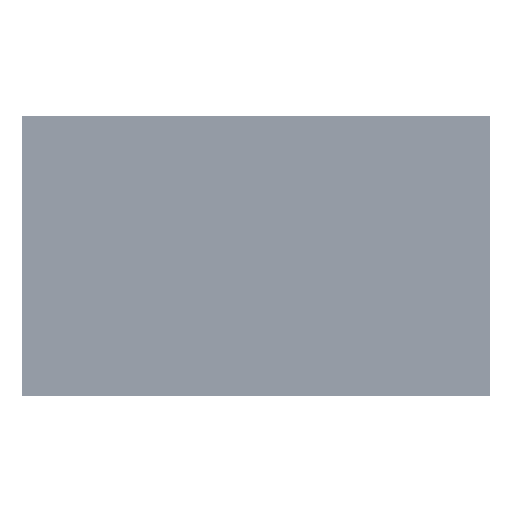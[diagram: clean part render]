
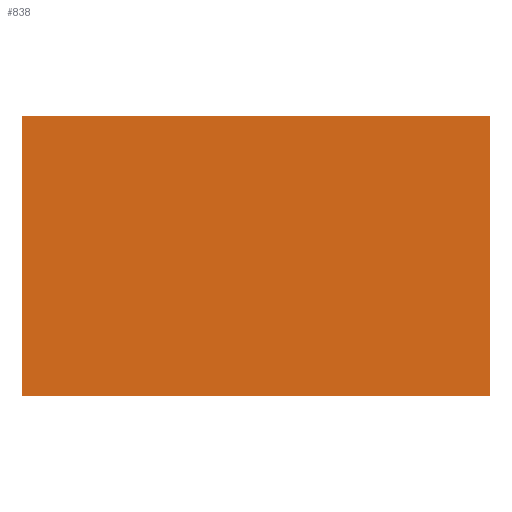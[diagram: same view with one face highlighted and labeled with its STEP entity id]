
A CAD part, left-side view. The second image highlights one B-rep face of the part: STEP entity #838.
In plain terms, the highlighted planar face has unit normal (-1, 0, 0).
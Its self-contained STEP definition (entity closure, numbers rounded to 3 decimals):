
#778 = VERTEX_POINT ( 'NONE', #8445 ) ;
#780 = EDGE_CURVE ( 'NONE', #781, #778, #8443, .T. ) ;
#781 = VERTEX_POINT ( 'NONE', #8502 ) ;
#838 = ADVANCED_FACE ( 'NONE', ( #8588 ), #8587, .T. ) ;
#839 = EDGE_LOOP ( 'NONE', ( #840, #843, #846, #848 ) ) ;
#840 = ORIENTED_EDGE ( 'NONE', *, *, #841, .F. ) ;
#841 = EDGE_CURVE ( 'NONE', #842, #778, #8582, .T. ) ;
#842 = VERTEX_POINT ( 'NONE', #8578 ) ;
#843 = ORIENTED_EDGE ( 'NONE', *, *, #844, .F. ) ;
#844 = EDGE_CURVE ( 'NONE', #845, #842, #8577, .T. ) ;
#845 = VERTEX_POINT ( 'NONE', #8573 ) ;
#846 = ORIENTED_EDGE ( 'NONE', *, *, #847, .T. ) ;
#847 = EDGE_CURVE ( 'NONE', #845, #781, #8572, .T. ) ;
#848 = ORIENTED_EDGE ( 'NONE', *, *, #780, .T. ) ;
#8440 = DIRECTION ( 'NONE',  ( 0., 0., -1. ) ) ;
#8441 = VECTOR ( 'NONE', #8440, 1000. ) ;
#8442 = CARTESIAN_POINT ( 'NONE',  ( 75.26, 239.782, 50. ) ) ;
#8443 = LINE ( 'NONE', #8442, #8441 ) ;
#8445 = CARTESIAN_POINT ( 'NONE',  ( 75.26, 239.782, 0. ) ) ;
#8502 = CARTESIAN_POINT ( 'NONE',  ( 75.26, 239.782, 50. ) ) ;
#8569 = DIRECTION ( 'NONE',  ( 0., 1., 0. ) ) ;
#8570 = VECTOR ( 'NONE', #8569, 1000. ) ;
#8571 = CARTESIAN_POINT ( 'NONE',  ( 75.26, -196.404, 50. ) ) ;
#8572 = LINE ( 'NONE', #8571, #8570 ) ;
#8573 = CARTESIAN_POINT ( 'NONE',  ( 75.26, 156.282, 50. ) ) ;
#8574 = DIRECTION ( 'NONE',  ( 0., 0., -1. ) ) ;
#8575 = VECTOR ( 'NONE', #8574, 1000. ) ;
#8576 = CARTESIAN_POINT ( 'NONE',  ( 75.26, 156.282, 50. ) ) ;
#8577 = LINE ( 'NONE', #8576, #8575 ) ;
#8578 = CARTESIAN_POINT ( 'NONE',  ( 75.26, 156.282, 0. ) ) ;
#8579 = DIRECTION ( 'NONE',  ( 0., 1., 0. ) ) ;
#8580 = VECTOR ( 'NONE', #8579, 1000. ) ;
#8581 = CARTESIAN_POINT ( 'NONE',  ( 75.26, -196.404, 0. ) ) ;
#8582 = LINE ( 'NONE', #8581, #8580 ) ;
#8583 = DIRECTION ( 'NONE',  ( 0., 0., 1. ) ) ;
#8584 = DIRECTION ( 'NONE',  ( -1., 0., 0. ) ) ;
#8585 = AXIS2_PLACEMENT_3D ( 'NONE', #8586, #8584, #8583 ) ;
#8586 = CARTESIAN_POINT ( 'NONE',  ( 75.26, -196.404, 50. ) ) ;
#8587 = PLANE ( 'NONE',  #8585 ) ;
#8588 = FACE_OUTER_BOUND ( 'NONE', #839, .T. ) ;
